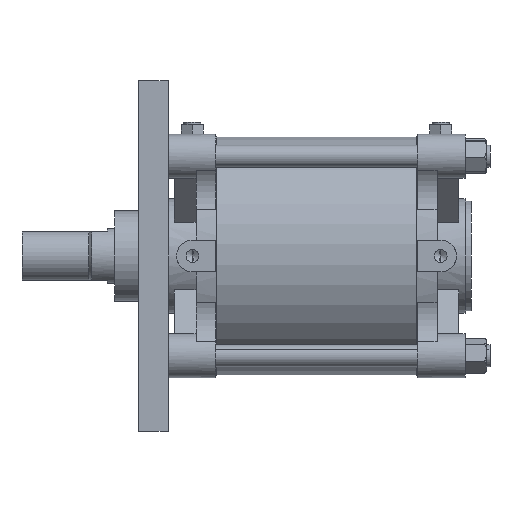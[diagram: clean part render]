
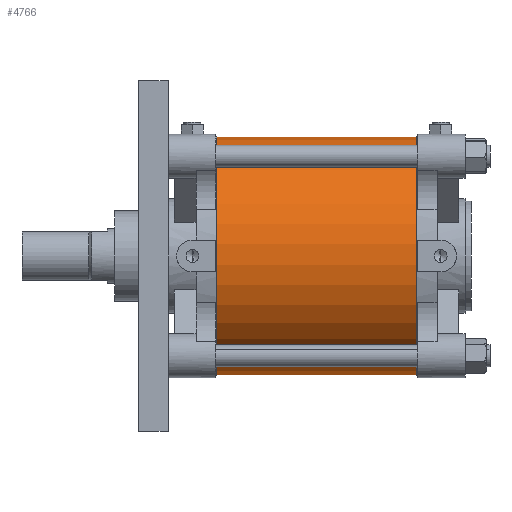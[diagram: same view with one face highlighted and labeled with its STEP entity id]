
A CAD part, front view. The second image highlights one B-rep face of the part: STEP entity #4766.
In plain terms, the highlighted cylindrical face has radius 98 mm (diameter 196 mm), a partial arc.
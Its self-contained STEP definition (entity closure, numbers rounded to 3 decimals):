
#202 = DIRECTION ( 'NONE',  ( 0., 0., -1. ) ) ;
#670 = DIRECTION ( 'NONE',  ( -1., 0., 0. ) ) ;
#721 = CIRCLE ( 'NONE', #7087, 98. ) ;
#854 = LINE ( 'NONE', #4134, #1514 ) ;
#1081 = EDGE_LOOP ( 'NONE', ( #7840, #8527, #4479, #9882 ) ) ;
#1493 = EDGE_CURVE ( 'NONE', #4104, #3169, #854, .T. ) ;
#1514 = VECTOR ( 'NONE', #670, 1000. ) ;
#2264 = VECTOR ( 'NONE', #4595, 1000. ) ;
#2398 = DIRECTION ( 'NONE',  ( 0., 0., -1. ) ) ;
#2863 = DIRECTION ( 'NONE',  ( 1., 0., 0. ) ) ;
#2904 = DIRECTION ( 'NONE',  ( 0., 0., 1. ) ) ;
#3066 = FACE_OUTER_BOUND ( 'NONE', #1081, .T. ) ;
#3169 = VERTEX_POINT ( 'NONE', #8289 ) ;
#3458 = CIRCLE ( 'NONE', #3771, 98. ) ;
#3597 = EDGE_CURVE ( 'NONE', #6285, #7167, #6629, .T. ) ;
#3702 = CYLINDRICAL_SURFACE ( 'NONE', #3857, 98. ) ;
#3762 = CARTESIAN_POINT ( 'NONE',  ( 82., 0., -98. ) ) ;
#3771 = AXIS2_PLACEMENT_3D ( 'NONE', #7782, #2863, #202 ) ;
#3857 = AXIS2_PLACEMENT_3D ( 'NONE', #8977, #9798, #2904 ) ;
#4104 = VERTEX_POINT ( 'NONE', #3762 ) ;
#4134 = CARTESIAN_POINT ( 'NONE',  ( 82., 0., -98. ) ) ;
#4479 = ORIENTED_EDGE ( 'NONE', *, *, #3597, .T. ) ;
#4508 = CARTESIAN_POINT ( 'NONE',  ( 82., 0., 98. ) ) ;
#4595 = DIRECTION ( 'NONE',  ( -1., 0., 0. ) ) ;
#4766 = ADVANCED_FACE ( 'NONE', ( #3066 ), #3702, .T. ) ;
#5242 = CARTESIAN_POINT ( 'NONE',  ( -82., 0., 0. ) ) ;
#5254 = CARTESIAN_POINT ( 'NONE',  ( 82., 0., 98. ) ) ;
#6285 = VERTEX_POINT ( 'NONE', #4508 ) ;
#6580 = EDGE_CURVE ( 'NONE', #7167, #3169, #721, .T. ) ;
#6629 = LINE ( 'NONE', #5254, #2264 ) ;
#7087 = AXIS2_PLACEMENT_3D ( 'NONE', #5242, #7980, #2398 ) ;
#7167 = VERTEX_POINT ( 'NONE', #8495 ) ;
#7782 = CARTESIAN_POINT ( 'NONE',  ( 82., 0., 0. ) ) ;
#7840 = ORIENTED_EDGE ( 'NONE', *, *, #1493, .F. ) ;
#7980 = DIRECTION ( 'NONE',  ( 1., 0., 0. ) ) ;
#8289 = CARTESIAN_POINT ( 'NONE',  ( -82., 0., -98. ) ) ;
#8495 = CARTESIAN_POINT ( 'NONE',  ( -82., 0., 98. ) ) ;
#8527 = ORIENTED_EDGE ( 'NONE', *, *, #8694, .F. ) ;
#8694 = EDGE_CURVE ( 'NONE', #6285, #4104, #3458, .T. ) ;
#8977 = CARTESIAN_POINT ( 'NONE',  ( 82., 0., 0. ) ) ;
#9798 = DIRECTION ( 'NONE',  ( -1., 0., 0. ) ) ;
#9882 = ORIENTED_EDGE ( 'NONE', *, *, #6580, .T. ) ;
